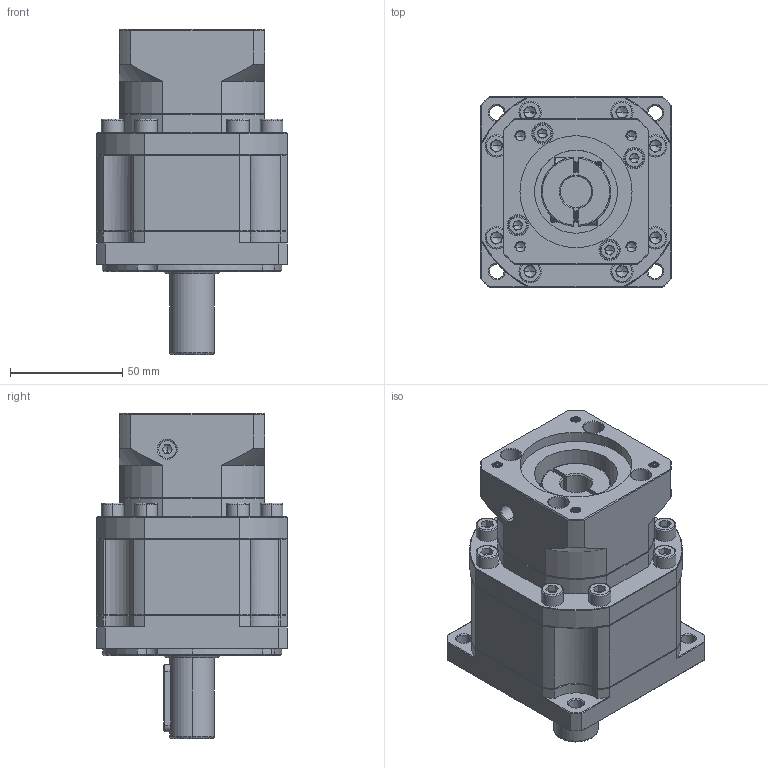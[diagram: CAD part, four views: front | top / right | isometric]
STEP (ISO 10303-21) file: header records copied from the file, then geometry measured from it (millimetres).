
FILE_DESCRIPTION (( 'STEP AP214' ), '1' );
FILE_NAME ('ZB090-D20-L2-P2-14-50-70-M5.step', '2023-08-18T13:32:52', ( '' ), ( '' ), 'SwSTEP 2.0', 'SolidWorks 2016', '' );
FILE_SCHEMA (( 'AUTOMOTIVE_DESIGN' ));
Length unit declared in the file: millimetre
Products named in the file (1): ZB090-D20-L2-P2-14-50-70-M5
Bounding box: 85 x 85 x 145 mm (x, y, z)
Volume: 542313.6 mm3; surface area: 76796.4 mm2
Topology: 6 solids, 6 shells, 2361 faces, 6275 edges, 4010 vertices
Faces by surface type: plane 1185, bspline 426, cylinder 406, cone 322, torus 22
Entity records: 125958 total; most frequent: CARTESIAN_POINT 44658, ORIENTED_EDGE 12458, DIRECTION 9937, EDGE_CURVE 6229, VERTEX_POINT 4010, VECTOR 3949, LINE 3949, AXIS2_PLACEMENT_3D 2994
